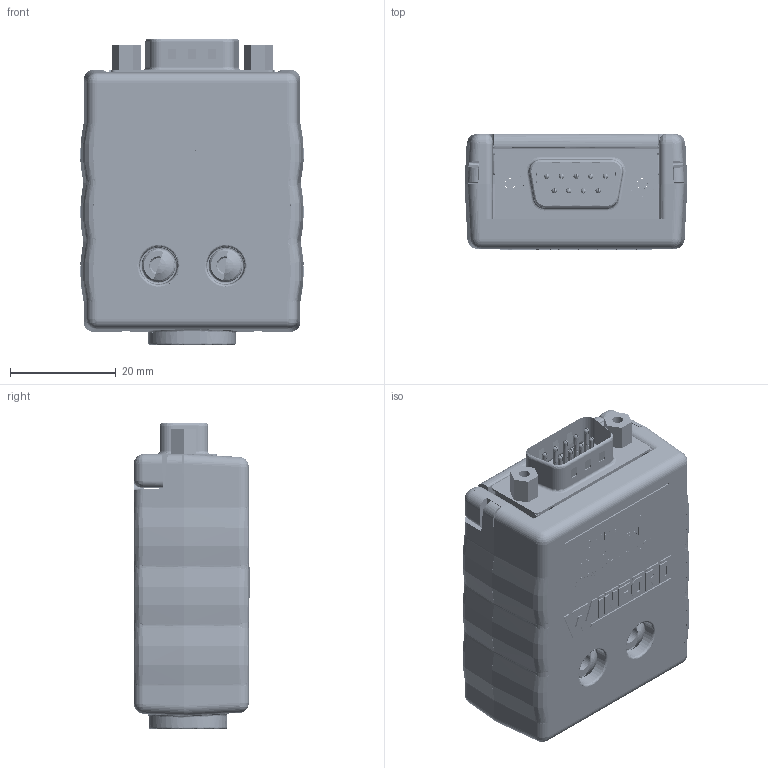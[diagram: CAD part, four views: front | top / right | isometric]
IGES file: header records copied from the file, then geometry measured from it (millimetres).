
Start section: SolidWorks IGES file using analytic representation for surfaces
Global section: file name: D:\Documents\Winford Engineering Jobs\DB9 Enclosure\brkegd9m-r_rev_a.igs; native system: SolidWorks 2017; preprocessor: SolidWorks 2017; author: mudhf; date: 210828.175204; units: inch
Bounding box: 42.29 x 22 x 57.97 mm (x, y, z)
Surface area: 29599 mm2 (no closed solid volume)
Topology: 0 solids, 0 shells, 9162 faces, 72740 edges, 72680 vertices
Faces by surface type: bspline 6652, revolution 2510
